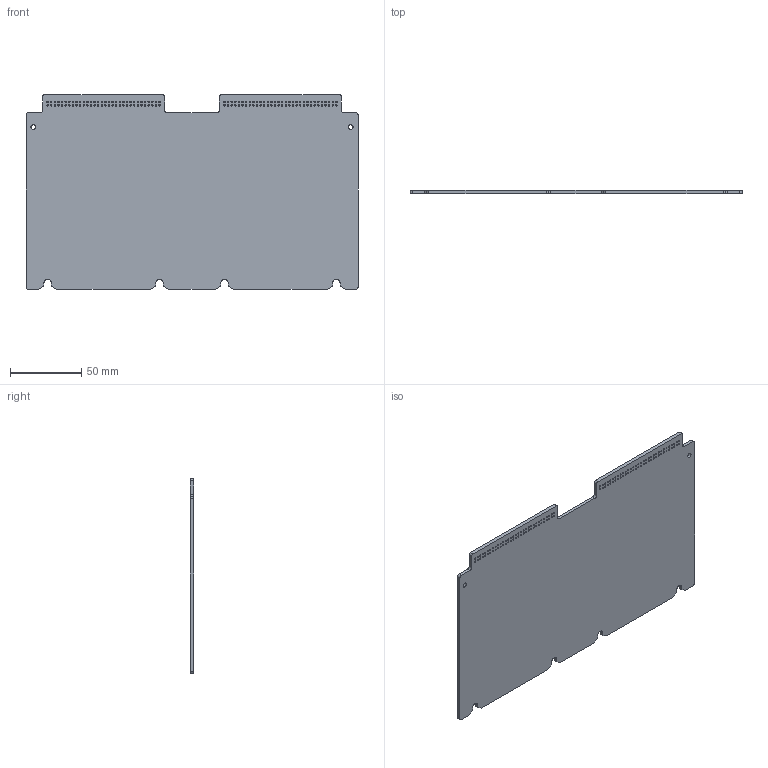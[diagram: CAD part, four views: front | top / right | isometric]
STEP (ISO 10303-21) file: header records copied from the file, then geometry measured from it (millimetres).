
FILE_DESCRIPTION(/* description */ (''),/* implementation_level */ '2;1');
FILE_NAME(/* name */ 'Double CB Connector Board.step',/* time_stamp */ '2023-11-06T12:32:44-05:00',/* author */ (''),/* organization */ (''),/* preprocessor_version */ 'ST-DEVELOPER v20',/* originating_system */ 'Autodesk Translation Framework v12.14.0.127',/* authorisation */ '');
FILE_SCHEMA (('AUTOMOTIVE_DESIGN { 1 0 10303 214 3 1 1 }'));
Length unit declared in the file: inch
Products named in the file (2): Double CB Connector Board; Double CB Connector Board_1
Assembly tree (1 placements, depth 2):
  Double CB Connector Board
    Double CB Connector Board_1
Bounding box: 233.68 x 2.36 x 137.16 mm (x, y, z)
Volume: 73170.3 mm3; surface area: 64816.4 mm2
Topology: 1 solids, 1 shells, 180 faces, 534 edges, 356 vertices
Faces by surface type: cylinder 146, plane 34
Full cylindrical faces by diameter (mm): 0.991 x128, 3.251 x2
Entity records: 6772 total; most frequent: DIRECTION 1192, CARTESIAN_POINT 1073, ORIENTED_EDGE 1068, EDGE_CURVE 534, AXIS2_PLACEMENT_3D 475, EDGE_LOOP 440, VERTEX_POINT 356, CIRCLE 292
